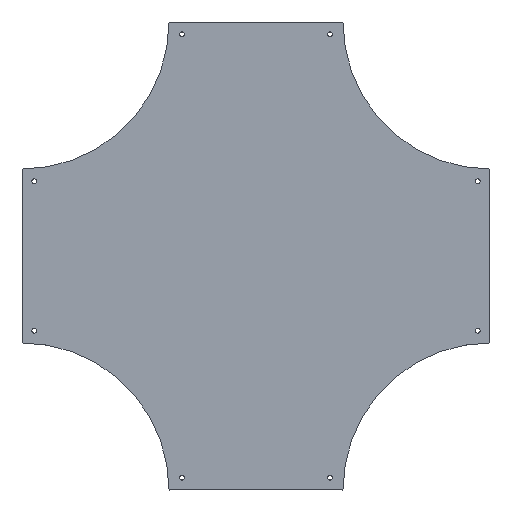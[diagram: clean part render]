
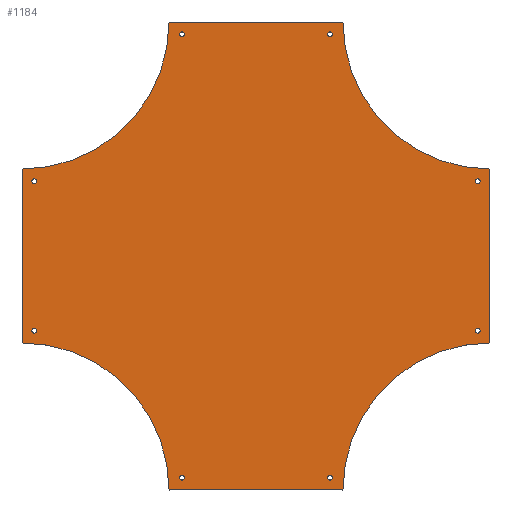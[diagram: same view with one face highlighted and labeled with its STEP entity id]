
A CAD part, top view. The second image highlights one B-rep face of the part: STEP entity #1184.
In plain terms, the highlighted planar face has unit normal (0, 0, 1).
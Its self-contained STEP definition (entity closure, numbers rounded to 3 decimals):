
#86=FACE_BOUND('',#177,.T.);
#87=FACE_BOUND('',#178,.T.);
#88=FACE_BOUND('',#179,.T.);
#89=FACE_BOUND('',#180,.T.);
#90=FACE_BOUND('',#181,.T.);
#91=FACE_BOUND('',#182,.T.);
#92=FACE_BOUND('',#183,.T.);
#93=FACE_BOUND('',#184,.T.);
#102=FACE_OUTER_BOUND('',#176,.T.);
#176=EDGE_LOOP('',(#810,#811,#812,#813,#814,#815,#816,#817));
#177=EDGE_LOOP('',(#818,#819));
#178=EDGE_LOOP('',(#820,#821));
#179=EDGE_LOOP('',(#822,#823));
#180=EDGE_LOOP('',(#824,#825));
#181=EDGE_LOOP('',(#826,#827));
#182=EDGE_LOOP('',(#828,#829));
#183=EDGE_LOOP('',(#830,#831));
#184=EDGE_LOOP('',(#832,#833));
#266=CIRCLE('',#1270,298.5);
#267=CIRCLE('',#1271,298.5);
#268=CIRCLE('',#1272,298.5);
#269=CIRCLE('',#1273,298.5);
#270=CIRCLE('',#1274,5.);
#271=CIRCLE('',#1275,5.);
#272=CIRCLE('',#1276,5.);
#273=CIRCLE('',#1277,5.);
#274=CIRCLE('',#1278,5.);
#275=CIRCLE('',#1279,5.);
#276=CIRCLE('',#1280,5.);
#277=CIRCLE('',#1281,5.);
#278=CIRCLE('',#1282,5.);
#279=CIRCLE('',#1283,5.);
#280=CIRCLE('',#1284,5.);
#281=CIRCLE('',#1285,5.);
#282=CIRCLE('',#1286,5.);
#283=CIRCLE('',#1287,5.);
#284=CIRCLE('',#1288,5.);
#285=CIRCLE('',#1289,5.);
#338=LINE('',#1839,#434);
#339=LINE('',#1843,#435);
#340=LINE('',#1847,#436);
#341=LINE('',#1851,#437);
#434=VECTOR('',#1430,304.8);
#435=VECTOR('',#1433,304.8);
#436=VECTOR('',#1436,304.8);
#437=VECTOR('',#1439,304.8);
#530=VERTEX_POINT('',#1837);
#531=VERTEX_POINT('',#1838);
#532=VERTEX_POINT('',#1840);
#533=VERTEX_POINT('',#1842);
#534=VERTEX_POINT('',#1844);
#535=VERTEX_POINT('',#1846);
#536=VERTEX_POINT('',#1848);
#537=VERTEX_POINT('',#1850);
#538=VERTEX_POINT('',#1853);
#539=VERTEX_POINT('',#1854);
#540=VERTEX_POINT('',#1857);
#541=VERTEX_POINT('',#1858);
#542=VERTEX_POINT('',#1861);
#543=VERTEX_POINT('',#1862);
#544=VERTEX_POINT('',#1865);
#545=VERTEX_POINT('',#1866);
#546=VERTEX_POINT('',#1869);
#547=VERTEX_POINT('',#1870);
#548=VERTEX_POINT('',#1873);
#549=VERTEX_POINT('',#1874);
#550=VERTEX_POINT('',#1877);
#551=VERTEX_POINT('',#1878);
#552=VERTEX_POINT('',#1881);
#553=VERTEX_POINT('',#1882);
#642=EDGE_CURVE('',#530,#531,#338,.T.);
#643=EDGE_CURVE('',#531,#532,#266,.T.);
#644=EDGE_CURVE('',#532,#533,#339,.T.);
#645=EDGE_CURVE('',#533,#534,#267,.T.);
#646=EDGE_CURVE('',#534,#535,#340,.T.);
#647=EDGE_CURVE('',#535,#536,#268,.T.);
#648=EDGE_CURVE('',#536,#537,#341,.T.);
#649=EDGE_CURVE('',#537,#530,#269,.T.);
#650=EDGE_CURVE('',#538,#539,#270,.T.);
#651=EDGE_CURVE('',#539,#538,#271,.T.);
#652=EDGE_CURVE('',#540,#541,#272,.T.);
#653=EDGE_CURVE('',#541,#540,#273,.T.);
#654=EDGE_CURVE('',#542,#543,#274,.T.);
#655=EDGE_CURVE('',#543,#542,#275,.T.);
#656=EDGE_CURVE('',#544,#545,#276,.T.);
#657=EDGE_CURVE('',#545,#544,#277,.T.);
#658=EDGE_CURVE('',#546,#547,#278,.T.);
#659=EDGE_CURVE('',#547,#546,#279,.T.);
#660=EDGE_CURVE('',#548,#549,#280,.T.);
#661=EDGE_CURVE('',#549,#548,#281,.T.);
#662=EDGE_CURVE('',#550,#551,#282,.T.);
#663=EDGE_CURVE('',#551,#550,#283,.T.);
#664=EDGE_CURVE('',#552,#553,#284,.T.);
#665=EDGE_CURVE('',#553,#552,#285,.T.);
#810=ORIENTED_EDGE('',*,*,#642,.T.);
#811=ORIENTED_EDGE('',*,*,#643,.T.);
#812=ORIENTED_EDGE('',*,*,#644,.T.);
#813=ORIENTED_EDGE('',*,*,#645,.T.);
#814=ORIENTED_EDGE('',*,*,#646,.T.);
#815=ORIENTED_EDGE('',*,*,#647,.T.);
#816=ORIENTED_EDGE('',*,*,#648,.T.);
#817=ORIENTED_EDGE('',*,*,#649,.T.);
#818=ORIENTED_EDGE('',*,*,#650,.T.);
#819=ORIENTED_EDGE('',*,*,#651,.T.);
#820=ORIENTED_EDGE('',*,*,#652,.T.);
#821=ORIENTED_EDGE('',*,*,#653,.T.);
#822=ORIENTED_EDGE('',*,*,#654,.T.);
#823=ORIENTED_EDGE('',*,*,#655,.T.);
#824=ORIENTED_EDGE('',*,*,#656,.T.);
#825=ORIENTED_EDGE('',*,*,#657,.T.);
#826=ORIENTED_EDGE('',*,*,#658,.T.);
#827=ORIENTED_EDGE('',*,*,#659,.T.);
#828=ORIENTED_EDGE('',*,*,#660,.T.);
#829=ORIENTED_EDGE('',*,*,#661,.T.);
#830=ORIENTED_EDGE('',*,*,#662,.T.);
#831=ORIENTED_EDGE('',*,*,#663,.T.);
#832=ORIENTED_EDGE('',*,*,#664,.T.);
#833=ORIENTED_EDGE('',*,*,#665,.T.);
#1146=PLANE('',#1269);
#1184=ADVANCED_FACE('',(#102,#86,#87,#88,#89,#90,#91,#92,#93),#1146,.T.);
#1269=AXIS2_PLACEMENT_3D('',#1836,#1428,#1429);
#1270=AXIS2_PLACEMENT_3D('',#1841,#1431,#1432);
#1271=AXIS2_PLACEMENT_3D('',#1845,#1434,#1435);
#1272=AXIS2_PLACEMENT_3D('',#1849,#1437,#1438);
#1273=AXIS2_PLACEMENT_3D('',#1852,#1440,#1441);
#1274=AXIS2_PLACEMENT_3D('',#1855,#1442,#1443);
#1275=AXIS2_PLACEMENT_3D('',#1856,#1444,#1445);
#1276=AXIS2_PLACEMENT_3D('',#1859,#1446,#1447);
#1277=AXIS2_PLACEMENT_3D('',#1860,#1448,#1449);
#1278=AXIS2_PLACEMENT_3D('',#1863,#1450,#1451);
#1279=AXIS2_PLACEMENT_3D('',#1864,#1452,#1453);
#1280=AXIS2_PLACEMENT_3D('',#1867,#1454,#1455);
#1281=AXIS2_PLACEMENT_3D('',#1868,#1456,#1457);
#1282=AXIS2_PLACEMENT_3D('',#1871,#1458,#1459);
#1283=AXIS2_PLACEMENT_3D('',#1872,#1460,#1461);
#1284=AXIS2_PLACEMENT_3D('',#1875,#1462,#1463);
#1285=AXIS2_PLACEMENT_3D('',#1876,#1464,#1465);
#1286=AXIS2_PLACEMENT_3D('',#1879,#1466,#1467);
#1287=AXIS2_PLACEMENT_3D('',#1880,#1468,#1469);
#1288=AXIS2_PLACEMENT_3D('',#1883,#1470,#1471);
#1289=AXIS2_PLACEMENT_3D('',#1884,#1472,#1473);
#1428=DIRECTION('center_axis',(0.,0.,1.));
#1429=DIRECTION('ref_axis',(0.,-1.,0.));
#1430=DIRECTION('',(0.,1.,0.));
#1431=DIRECTION('center_axis',(0.,0.,-1.));
#1432=DIRECTION('ref_axis',(1.,0.,0.));
#1433=DIRECTION('',(-1.,0.,0.));
#1434=DIRECTION('center_axis',(0.,0.,-1.));
#1435=DIRECTION('ref_axis',(1.,0.,0.));
#1436=DIRECTION('',(0.,-1.,0.));
#1437=DIRECTION('center_axis',(0.,0.,-1.));
#1438=DIRECTION('ref_axis',(1.,0.,0.));
#1439=DIRECTION('',(1.,0.,0.));
#1440=DIRECTION('center_axis',(0.,0.,-1.));
#1441=DIRECTION('ref_axis',(1.,0.,0.));
#1442=DIRECTION('center_axis',(0.,0.,-1.));
#1443=DIRECTION('ref_axis',(1.,0.,0.));
#1444=DIRECTION('center_axis',(0.,0.,-1.));
#1445=DIRECTION('ref_axis',(1.,0.,0.));
#1446=DIRECTION('center_axis',(0.,0.,-1.));
#1447=DIRECTION('ref_axis',(1.,0.,0.));
#1448=DIRECTION('center_axis',(0.,0.,-1.));
#1449=DIRECTION('ref_axis',(1.,0.,0.));
#1450=DIRECTION('center_axis',(0.,0.,-1.));
#1451=DIRECTION('ref_axis',(1.,0.,0.));
#1452=DIRECTION('center_axis',(0.,0.,-1.));
#1453=DIRECTION('ref_axis',(1.,0.,0.));
#1454=DIRECTION('center_axis',(0.,0.,-1.));
#1455=DIRECTION('ref_axis',(1.,0.,0.));
#1456=DIRECTION('center_axis',(0.,0.,-1.));
#1457=DIRECTION('ref_axis',(1.,0.,0.));
#1458=DIRECTION('center_axis',(0.,0.,-1.));
#1459=DIRECTION('ref_axis',(1.,0.,0.));
#1460=DIRECTION('center_axis',(0.,0.,-1.));
#1461=DIRECTION('ref_axis',(1.,0.,0.));
#1462=DIRECTION('center_axis',(0.,0.,-1.));
#1463=DIRECTION('ref_axis',(1.,0.,0.));
#1464=DIRECTION('center_axis',(0.,0.,-1.));
#1465=DIRECTION('ref_axis',(1.,0.,0.));
#1466=DIRECTION('center_axis',(0.,0.,-1.));
#1467=DIRECTION('ref_axis',(1.,0.,0.));
#1468=DIRECTION('center_axis',(0.,0.,-1.));
#1469=DIRECTION('ref_axis',(1.,0.,0.));
#1470=DIRECTION('center_axis',(0.,0.,-1.));
#1471=DIRECTION('ref_axis',(1.,0.,0.));
#1472=DIRECTION('center_axis',(0.,0.,-1.));
#1473=DIRECTION('ref_axis',(1.,0.,0.));
#1836=CARTESIAN_POINT('Origin',(-176.5,-475.,1.5));
#1837=CARTESIAN_POINT('',(475.,-176.5,1.5));
#1838=CARTESIAN_POINT('',(475.,176.5,1.5));
#1839=CARTESIAN_POINT('',(475.,-176.5,1.5));
#1840=CARTESIAN_POINT('',(176.5,475.,1.5));
#1841=CARTESIAN_POINT('Origin',(475.,475.,1.5));
#1842=CARTESIAN_POINT('',(-176.5,475.,1.5));
#1843=CARTESIAN_POINT('',(176.5,475.,1.5));
#1844=CARTESIAN_POINT('',(-475.,176.5,1.5));
#1845=CARTESIAN_POINT('Origin',(-475.,475.,1.5));
#1846=CARTESIAN_POINT('',(-475.,-176.5,1.5));
#1847=CARTESIAN_POINT('',(-475.,176.5,1.5));
#1848=CARTESIAN_POINT('',(-176.5,-475.,1.5));
#1849=CARTESIAN_POINT('Origin',(-475.,-475.,1.5));
#1850=CARTESIAN_POINT('',(176.5,-475.,1.5));
#1851=CARTESIAN_POINT('',(-176.5,-475.,1.5));
#1852=CARTESIAN_POINT('Origin',(475.,-475.,1.5));
#1853=CARTESIAN_POINT('',(-445.,151.5,1.5));
#1854=CARTESIAN_POINT('',(-455.,151.5,1.5));
#1855=CARTESIAN_POINT('Origin',(-450.,151.5,1.5));
#1856=CARTESIAN_POINT('Origin',(-450.,151.5,1.5));
#1857=CARTESIAN_POINT('',(-445.,-151.5,1.5));
#1858=CARTESIAN_POINT('',(-455.,-151.5,1.5));
#1859=CARTESIAN_POINT('Origin',(-450.,-151.5,1.5));
#1860=CARTESIAN_POINT('Origin',(-450.,-151.5,1.5));
#1861=CARTESIAN_POINT('',(155.,450.,1.5));
#1862=CARTESIAN_POINT('',(145.,450.,1.5));
#1863=CARTESIAN_POINT('Origin',(150.,450.,1.5));
#1864=CARTESIAN_POINT('Origin',(150.,450.,1.5));
#1865=CARTESIAN_POINT('',(-145.,450.,1.5));
#1866=CARTESIAN_POINT('',(-155.,450.,1.5));
#1867=CARTESIAN_POINT('Origin',(-150.,450.,1.5));
#1868=CARTESIAN_POINT('Origin',(-150.,450.,1.5));
#1869=CARTESIAN_POINT('',(455.,151.5,1.5));
#1870=CARTESIAN_POINT('',(445.,151.5,1.5));
#1871=CARTESIAN_POINT('Origin',(450.,151.5,1.5));
#1872=CARTESIAN_POINT('Origin',(450.,151.5,1.5));
#1873=CARTESIAN_POINT('',(455.,-151.5,1.5));
#1874=CARTESIAN_POINT('',(445.,-151.5,1.5));
#1875=CARTESIAN_POINT('Origin',(450.,-151.5,1.5));
#1876=CARTESIAN_POINT('Origin',(450.,-151.5,1.5));
#1877=CARTESIAN_POINT('',(-145.,-450.,1.5));
#1878=CARTESIAN_POINT('',(-155.,-450.,1.5));
#1879=CARTESIAN_POINT('Origin',(-150.,-450.,1.5));
#1880=CARTESIAN_POINT('Origin',(-150.,-450.,1.5));
#1881=CARTESIAN_POINT('',(155.,-450.,1.5));
#1882=CARTESIAN_POINT('',(145.,-450.,1.5));
#1883=CARTESIAN_POINT('Origin',(150.,-450.,1.5));
#1884=CARTESIAN_POINT('Origin',(150.,-450.,1.5));
